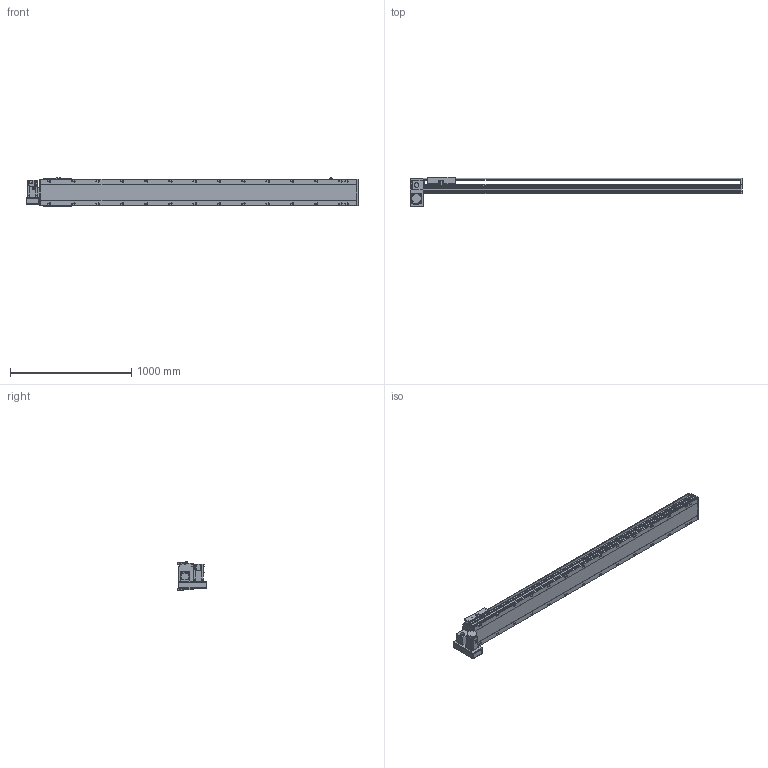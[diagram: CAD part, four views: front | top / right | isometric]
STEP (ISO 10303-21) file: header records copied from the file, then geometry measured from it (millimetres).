
FILE_DESCRIPTION(/* description */ ('STEP AP214'),/* implementation_level */ '2;1');
FILE_NAME(/* name */ 'PBS220-P40-S2250-LD-T75-C1-N(0)',/* time_stamp */ '2022-06-27T09:45:54+02:00',/* author */ ('License CC BY-ND 4.0'),/* organization */ ('CADENAS'),/* preprocessor_version */ 'ST-DEVELOPER v18.102',/* originating_system */ 'PARTsolutions',/* authorisation */ ' ');
FILE_SCHEMA (('AUTOMOTIVE_DESIGN {1 0 10303 214 3 1 1}'));
Length unit declared in the file: millimetre
Products named in the file (7): PBS220-P40-S2250-LD-T75-C1-N(0); PBS220_sensor; PBS220_plant; PBS220_sliser; T75-p1; PBS220T-LD_motors; PBS220-S2250()_body
Assembly tree (8 placements, depth 2):
  PBS220-P40-S2250-LD-T75-C1-N(0)
    PBS220_sensor  x3
    PBS220_plant
    PBS220_sliser
    T75-p1
    PBS220T-LD_motors
    PBS220-S2250()_body
Bounding box: 2734 x 239 x 238.5 mm (x, y, z)
Volume: 38285909 mm3; surface area: 3534697.6 mm2
Topology: 8 solids, 8 shells, 986 faces, 2564 edges, 1666 vertices
Faces by surface type: plane 622, cylinder 312, cone 52
Full cylindrical faces by diameter (mm): 2.013 x4, 4.5 x14, 4.917 x4, 6 x7, 6.647 x8, 8 x10, 8.376 x28, 8.5 x28, 10 x6, 14 x28, 38 x2, 40 x1, 70 x1
Entity records: 27500 total; most frequent: CARTESIAN_POINT 4888, DIRECTION 4779, ORIENTED_EDGE 4322, EDGE_CURVE 2161, AXIS2_PLACEMENT_3D 1711, VERTEX_POINT 1512, LINE 1357, VECTOR 1357
